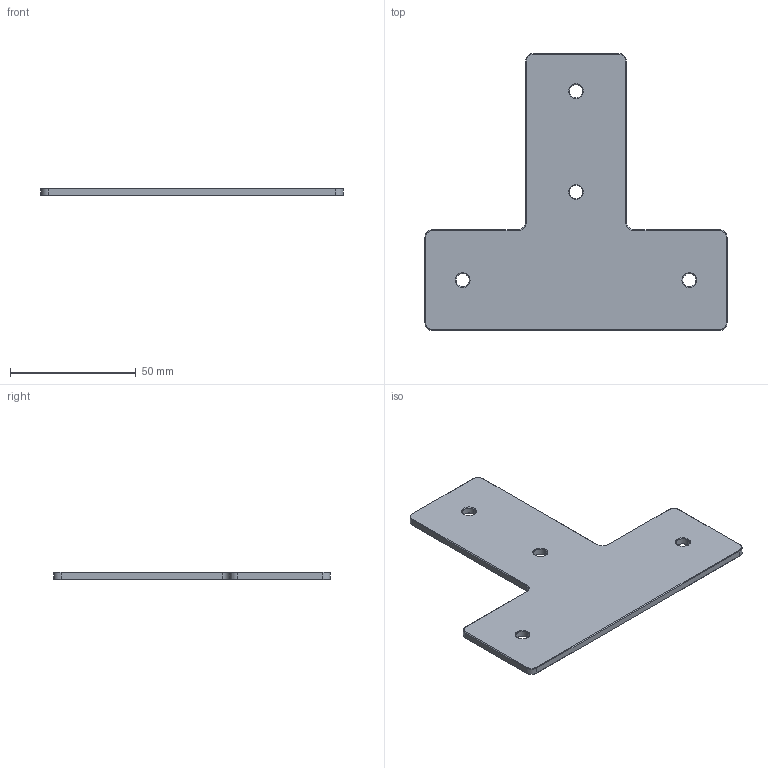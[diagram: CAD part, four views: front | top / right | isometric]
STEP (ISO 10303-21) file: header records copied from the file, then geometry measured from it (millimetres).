
FILE_DESCRIPTION (( 'STEP AP214' ), '1' );
FILE_NAME ('SFP-T40120.STEP', '2022-12-07T02:50:36', ( '' ), ( '' ), 'SwSTEP 2.0', 'SolidWorks 2018', '' );
FILE_SCHEMA (( 'AUTOMOTIVE_DESIGN' ));
Length unit declared in the file: millimetre
Products named in the file (1): SFP-T40120
Bounding box: 120 x 110 x 3 mm (x, y, z)
Volume: 22465.4 mm3; surface area: 16376.2 mm2
Topology: 1 solids, 1 shells, 74 faces, 168 edges, 96 vertices
Faces by surface type: cone 32, plane 26, cylinder 16
Entity records: 2082 total; most frequent: DIRECTION 382, CARTESIAN_POINT 339, ORIENTED_EDGE 336, EDGE_CURVE 168, AXIS2_PLACEMENT_3D 139, VECTOR 104, LINE 104, VERTEX_POINT 96
